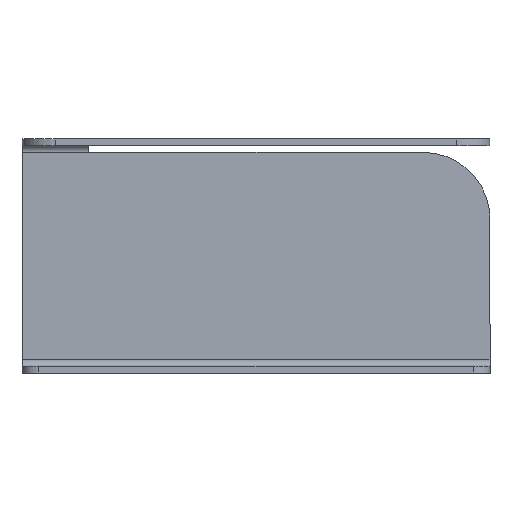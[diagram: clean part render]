
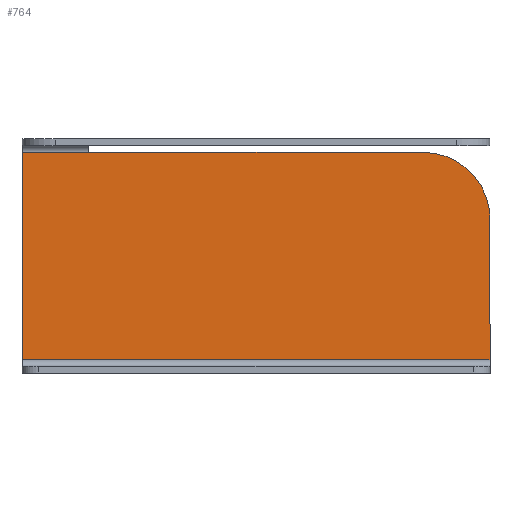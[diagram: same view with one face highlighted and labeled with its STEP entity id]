
A CAD part, front view. The second image highlights one B-rep face of the part: STEP entity #764.
In plain terms, the highlighted planar face has unit normal (0, -1, 0).
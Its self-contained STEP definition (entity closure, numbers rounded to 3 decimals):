
#14 = LINE ( 'NONE', #644, #266 ) ;
#23 = ORIENTED_EDGE ( 'NONE', *, *, #420, .F. ) ;
#37 = CARTESIAN_POINT ( 'NONE',  ( -70., 28., 64. ) ) ;
#43 = LINE ( 'NONE', #868, #926 ) ;
#50 = VERTEX_POINT ( 'NONE', #840 ) ;
#56 = VERTEX_POINT ( 'NONE', #1031 ) ;
#103 = DIRECTION ( 'NONE',  ( 0., -1., 0. ) ) ;
#132 = DIRECTION ( 'NONE',  ( 0., -1., 0. ) ) ;
#146 = AXIS2_PLACEMENT_3D ( 'NONE', #635, #103, #1089 ) ;
#158 = EDGE_LOOP ( 'NONE', ( #1033, #824, #1025, #23, #588, #630 ) ) ;
#169 = VERTEX_POINT ( 'NONE', #1148 ) ;
#188 = CARTESIAN_POINT ( 'NONE',  ( 70., 28., 64. ) ) ;
#259 = CARTESIAN_POINT ( 'NONE',  ( -70., 28., 64. ) ) ;
#266 = VECTOR ( 'NONE', #552, 1000. ) ;
#280 = DIRECTION ( 'NONE',  ( 1., 0., 0. ) ) ;
#331 = EDGE_CURVE ( 'NONE', #50, #1000, #455, .T. ) ;
#341 = DIRECTION ( 'NONE',  ( 0., 0., -1. ) ) ;
#362 = PLANE ( 'NONE',  #146 ) ;
#420 = EDGE_CURVE ( 'NONE', #954, #869, #14, .T. ) ;
#449 = EDGE_CURVE ( 'NONE', #869, #169, #1003, .T. ) ;
#455 = LINE ( 'NONE', #649, #1034 ) ;
#466 = VECTOR ( 'NONE', #962, 1000. ) ;
#536 = EDGE_CURVE ( 'NONE', #56, #169, #679, .T. ) ;
#552 = DIRECTION ( 'NONE',  ( 1., 0., 0. ) ) ;
#568 = DIRECTION ( 'NONE',  ( 0., 0., -1. ) ) ;
#579 = CARTESIAN_POINT ( 'NONE',  ( 50., 28., 44. ) ) ;
#588 = ORIENTED_EDGE ( 'NONE', *, *, #737, .F. ) ;
#630 = ORIENTED_EDGE ( 'NONE', *, *, #331, .F. ) ;
#635 = CARTESIAN_POINT ( 'NONE',  ( 0., 28., 0. ) ) ;
#644 = CARTESIAN_POINT ( 'NONE',  ( 70., 28., 64. ) ) ;
#649 = CARTESIAN_POINT ( 'NONE',  ( 70., 28., 2. ) ) ;
#679 = CIRCLE ( 'NONE', #982, 20. ) ;
#737 = EDGE_CURVE ( 'NONE', #1000, #954, #1168, .T. ) ;
#764 = ADVANCED_FACE ( 'NONE', ( #912 ), #362, .T. ) ;
#823 = CARTESIAN_POINT ( 'NONE',  ( -70., 28., 2. ) ) ;
#824 = ORIENTED_EDGE ( 'NONE', *, *, #536, .T. ) ;
#825 = VECTOR ( 'NONE', #280, 1000. ) ;
#840 = CARTESIAN_POINT ( 'NONE',  ( 70., 28., 2. ) ) ;
#868 = CARTESIAN_POINT ( 'NONE',  ( 70., 28., 0. ) ) ;
#869 = VERTEX_POINT ( 'NONE', #1094 ) ;
#912 = FACE_OUTER_BOUND ( 'NONE', #158, .T. ) ;
#926 = VECTOR ( 'NONE', #341, 1000. ) ;
#954 = VERTEX_POINT ( 'NONE', #37 ) ;
#962 = DIRECTION ( 'NONE',  ( 0., 0., 1. ) ) ;
#982 = AXIS2_PLACEMENT_3D ( 'NONE', #579, #132, #568 ) ;
#1000 = VERTEX_POINT ( 'NONE', #823 ) ;
#1003 = LINE ( 'NONE', #188, #825 ) ;
#1016 = DIRECTION ( 'NONE',  ( -1., 0., 0. ) ) ;
#1025 = ORIENTED_EDGE ( 'NONE', *, *, #449, .F. ) ;
#1031 = CARTESIAN_POINT ( 'NONE',  ( 70., 28., 44. ) ) ;
#1033 = ORIENTED_EDGE ( 'NONE', *, *, #1104, .F. ) ;
#1034 = VECTOR ( 'NONE', #1016, 1000. ) ;
#1089 = DIRECTION ( 'NONE',  ( 0., 0., -1. ) ) ;
#1094 = CARTESIAN_POINT ( 'NONE',  ( -50., 28., 64. ) ) ;
#1104 = EDGE_CURVE ( 'NONE', #56, #50, #43, .T. ) ;
#1148 = CARTESIAN_POINT ( 'NONE',  ( 50., 28., 64. ) ) ;
#1168 = LINE ( 'NONE', #259, #466 ) ;
